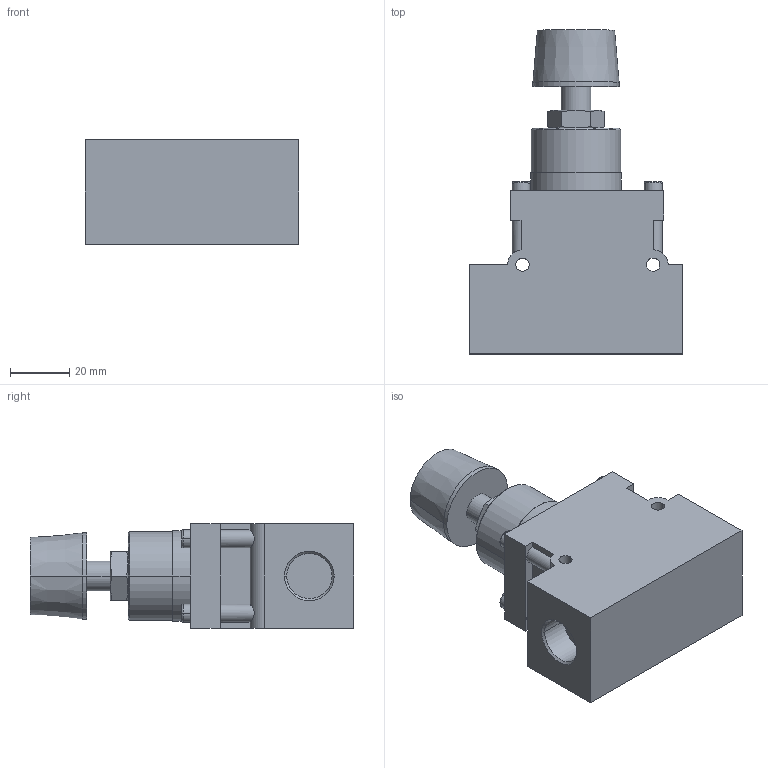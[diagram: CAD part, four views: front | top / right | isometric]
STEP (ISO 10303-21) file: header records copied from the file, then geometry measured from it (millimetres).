
FILE_DESCRIPTION((''),'2;1');
FILE_NAME('0821200014','2023-09-07T10:26:27',('THD3HC'),(''),'CREO PARAMETRIC BY PTC INC, 2020044','CREO PARAMETRIC BY PTC INC, 2020044','');
FILE_SCHEMA(('CONFIG_CONTROL_DESIGN','SHAPE_APPEARANCE_LAYERS_GROUPS'));
Length unit declared in the file: millimetre
Products named in the file (1): 0821200014
Bounding box: 72 x 109 x 35 mm (x, y, z)
Volume: 142795.2 mm3; surface area: 23399.7 mm2
Topology: 1 solids, 1 shells, 85 faces, 202 edges, 130 vertices
Faces by surface type: plane 35, cylinder 30, cone 12, torus 8
Entity records: 4588 total; most frequent: CARTESIAN_POINT 867, DIRECTION 438, ORIENTED_EDGE 404, PRESENTATION_STYLE_ASSIGNMENT 288, STYLED_ITEM 203, CURVE_STYLE 202, EDGE_CURVE 202, AXIS2_PLACEMENT_3D 171
